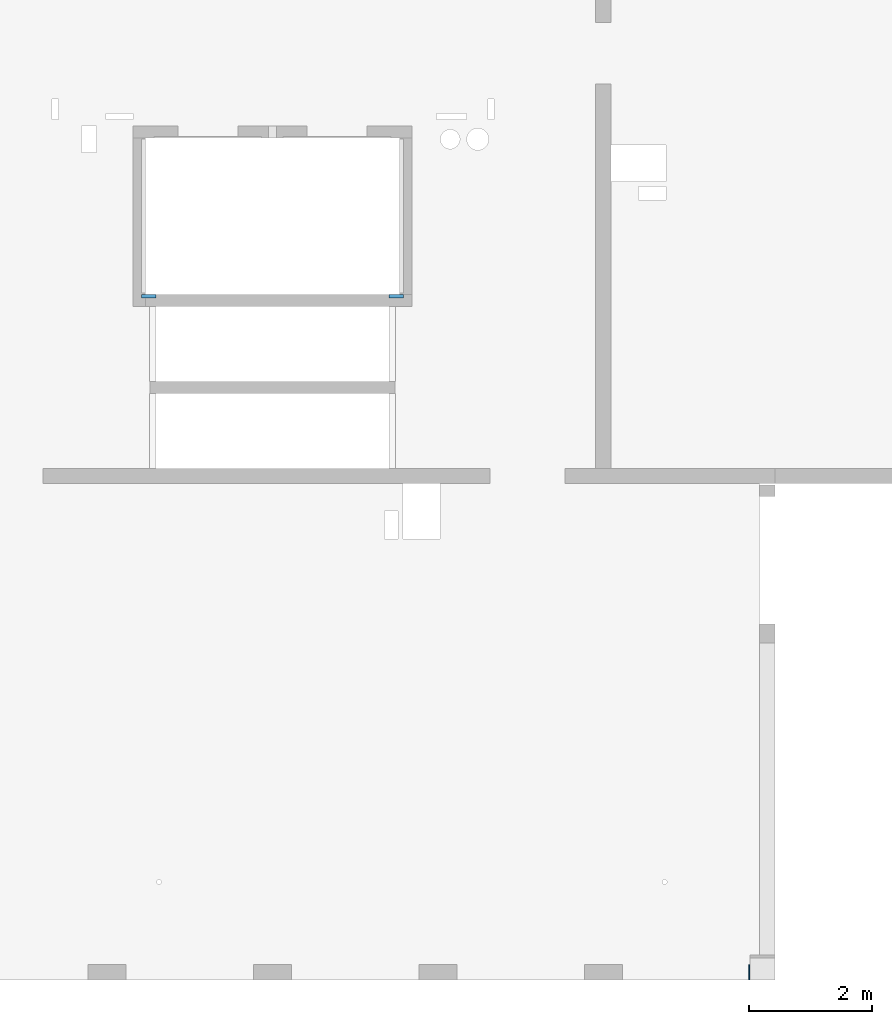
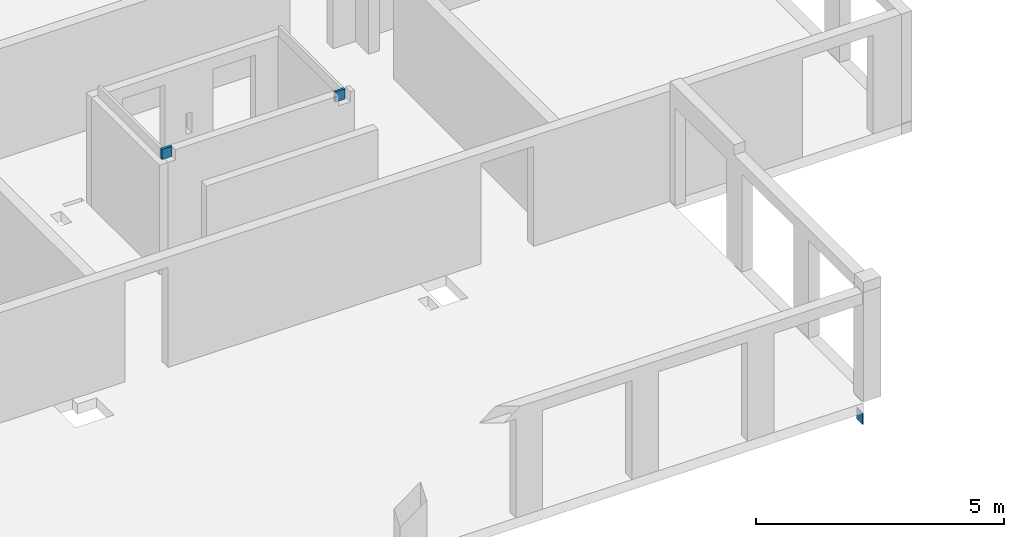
# One storey, part 5 of 8: 3 walls, 1 opening.
"""IFC2X3 building model written with IfcOpenShell, lengths in millimetres."""

import ifcopenshell
import ifcopenshell.guid

model = None  # the IFC model being written
_history = None  # IfcOwnerHistory: only IFC2X3 demands one
_inside = {}  # id of a spatial element -> (the spatial element, [elements in it])
_under = {}  # id of a project, library or spatial element -> (it, [spatial elements below it])
_declared = {}  # id of a project -> (the project, [libraries it declares])
_typed = {}  # id of a type object -> (the type object, [elements of that type])
_made_of = {}  # id of a material, layer set ... -> (it, [elements and type objects made of it])


def new_model(schema):
    """Start an empty IFC model of exactly this schema.

    Asked for "IFC4X3", IfcOpenShell would pick the latest addendum, in which some entities
    have other attributes; the version numbers below select the first issue.
    IFC2X3 requires an IfcOwnerHistory on every rooted entity: one is made here for all.
    """
    global model, _history
    if schema == "IFC4X3":
        model = ifcopenshell.file(schema_version=(4, 3, 0, 0))
    else:
        model = ifcopenshell.file(schema=schema)
    _inside.clear()
    _under.clear()
    _declared.clear()
    _typed.clear()
    _made_of.clear()
    _history = None
    if model.schema == "IFC2X3":
        org = make("IfcOrganization", Name="unknown")
        user = make(
            "IfcPersonAndOrganization",
            ThePerson=make("IfcPerson", FamilyName="unknown"),
            TheOrganization=org,
        )
        app = make(
            "IfcApplication",
            ApplicationDeveloper=org,
            Version="unknown",
            ApplicationFullName="unknown",
            ApplicationIdentifier="unknown",
        )
        _history = make(
            "IfcOwnerHistory",
            OwningUser=user,
            OwningApplication=app,
            ChangeAction="ADDED",
            CreationDate=0,
        )
    return model


def make(cls, **values):
    """One entity of the class cls with the attributes given. An attribute that is None is left unset."""
    return model.create_entity(
        cls, **{name: value for name, value in values.items() if value is not None}
    )


def entity(cls, *values):
    """Any entity or typed value of the class cls, its attributes in the order of the schema. None: left unset."""
    e = model.create_entity(cls)
    for i, value in enumerate(values):
        if value is not None:
            e[i] = value
    return e


def rooted(cls, **values):
    """An entity with a GlobalId (a new one), such as an element, a storey or a relation."""
    return make(cls, GlobalId=ifcopenshell.guid.new(), OwnerHistory=_history, **values)


def si_unit(unit_type, name, prefix=None):
    """IfcSIUnit, for example si_unit("LENGTHUNIT", "METRE", prefix="MILLI")."""
    return make("IfcSIUnit", UnitType=unit_type, Prefix=prefix, Name=name)


def converted_unit(unit_type, name, factor, base, dimensions=None, offset=None):
    """IfcConversionBasedUnit, such as the inch: factor (a typed value) times the base unit."""
    return make(
        "IfcConversionBasedUnit"
        if offset is None
        else "IfcConversionBasedUnitWithOffset",
        ConversionOffset=offset,
        Dimensions=None
        if dimensions is None
        else entity("IfcDimensionalExponents", *dimensions),
        UnitType=unit_type,
        Name=name,
        ConversionFactor=make(
            "IfcMeasureWithUnit", ValueComponent=factor, UnitComponent=base
        ),
    )


def derived_unit(unit_type, elements):
    """IfcDerivedUnit: a product of units, each with its exponent."""
    return make(
        "IfcDerivedUnit",
        Elements=[
            make("IfcDerivedUnitElement", Unit=unit, Exponent=power)
            for unit, power in elements
        ],
        UnitType=unit_type,
    )


def assignment(units):
    """IfcUnitAssignment: the units of a project."""
    return None if units is None else make("IfcUnitAssignment", Units=units)


def point(xyz):
    """IfcCartesianPoint."""
    return None if xyz is None else make("IfcCartesianPoint", Coordinates=xyz)


def direction(xyz):
    """IfcDirection."""
    return None if xyz is None else make("IfcDirection", DirectionRatios=xyz)


def frame(location, z_axis=None, x_axis=None):
    """IfcAxis2Placement3D, a coordinate frame: its origin and axes. An axis left out is left unset."""
    return make(
        "IfcAxis2Placement3D",
        Location=point(location),
        Axis=direction(z_axis),
        RefDirection=direction(x_axis),
    )


def frame_2d(location, x_axis=None):
    """IfcAxis2Placement2D, a coordinate frame in the plane: its origin and x axis."""
    return make(
        "IfcAxis2Placement2D", Location=point(location), RefDirection=direction(x_axis)
    )


def origin():
    """The frame at (0, 0, 0) with its axes left unset."""
    return frame((0.0, 0.0, 0.0))


def place(relative_to, where):
    """IfcLocalPlacement: puts the frame where relative to a parent placement (None: the world)."""
    return make(
        "IfcLocalPlacement", PlacementRelTo=relative_to, RelativePlacement=where
    )


def context(
    kind, dimensions, precision=None, world=None, true_north=None, identifier=None
):
    """IfcGeometricRepresentationContext, for example the 3D "Model" context."""
    return make(
        "IfcGeometricRepresentationContext",
        ContextIdentifier=identifier,
        ContextType=kind,
        CoordinateSpaceDimension=dimensions,
        Precision=precision,
        WorldCoordinateSystem=world,
        TrueNorth=true_north,
    )


def subcontext(parent, identifier, kind, view, scale=None):
    """IfcGeometricRepresentationSubContext, for example "Body" below "Model"."""
    return make(
        "IfcGeometricRepresentationSubContext",
        ContextIdentifier=identifier,
        ContextType=kind,
        ParentContext=parent,
        TargetScale=scale,
        TargetView=view,
    )


def project(units=None, contexts=None):
    """IfcProject with its units and contexts."""
    return rooted(
        "IfcProject",
        Name="project",
        RepresentationContexts=contexts,
        UnitsInContext=assignment(units),
    )


def spatial(cls, under=None, at=None, **own):
    """A site, building, storey or space (cls), placed at a placement, below another one or the project."""
    s = rooted(cls, ObjectPlacement=at, **own)
    if under is not None:
        _under.setdefault(under.id(), (under, []))[1].append(s)
    return s


def profile(cls, at=None, kind="AREA", **sizes):
    """A parametric profile (cls). Its sizes go by their IFC names, for example OverallWidth=200.0."""
    return make(cls, ProfileType=kind, Position=at, **sizes)


def rectangle(**sizes):
    """IfcRectangleProfileDef."""
    return profile("IfcRectangleProfileDef", **sizes)


def extrude(swept, where, along, depth):
    """IfcExtrudedAreaSolid: the profile swept, set in the frame where, extruded along a direction by depth."""
    return make(
        "IfcExtrudedAreaSolid",
        SweptArea=swept,
        Position=where,
        ExtrudedDirection=direction(along),
        Depth=depth,
    )


def shape(context_of_items, identifier, shape_type, items):
    """IfcShapeRepresentation: the items that make up one representation, for example the "Body"."""
    return make(
        "IfcShapeRepresentation",
        ContextOfItems=context_of_items,
        RepresentationIdentifier=identifier,
        RepresentationType=shape_type,
        Items=items,
    )


def material(Name=None, Category=None):
    """IfcMaterial."""
    return make("IfcMaterial", Name=Name, Category=Category)


def layer(
    of_material, thickness, ventilated=None, Name=None, Category=None, Priority=None
):
    """IfcMaterialLayer: one layer of a wall or slab, of a material (None: an air gap)."""
    return make(
        "IfcMaterialLayer",
        Material=of_material,
        LayerThickness=thickness,
        IsVentilated=ventilated,
        Name=Name,
        Category=Category,
        Priority=Priority,
    )


def layer_set(layers, Name=None):
    """IfcMaterialLayerSet."""
    return make("IfcMaterialLayerSet", MaterialLayers=layers, LayerSetName=Name)


def layer_usage(for_layer_set, set_direction, sense, offset, extent=None):
    """IfcMaterialLayerSetUsage: how a layer set lies in its element."""
    return make(
        "IfcMaterialLayerSetUsage",
        ForLayerSet=for_layer_set,
        LayerSetDirection=set_direction,
        DirectionSense=sense,
        OffsetFromReferenceLine=offset,
        ReferenceExtent=extent,
    )


def made_of(thing, what):
    """Note that an element or type object is made of a material, layer set ...; save() writes the relation."""
    if what is not None:
        _made_of.setdefault(what.id(), (what, []))[1].append(thing)
    return thing


def type_object(cls, material=None, **own):
    """A type object (cls), such as IfcWallType, which elements share."""
    return made_of(rooted(cls, **own), material)


def element(
    cls,
    number,
    at=None,
    inside=None,
    cuts=None,
    type_object=None,
    material=None,
    context=None,
    identifier="Body",
    shape_type=None,
    held_by="IfcProductDefinitionShape",
    body=None,
    shapes=None,
    **own,
):
    """One element of the class cls, such as IfcWall. Its Tag is "e" and its number.

    at: its placement. inside: the storey or other place that contains it. cuts: it is an
    opening in that element (IfcRelVoidsElement). A single representation is given by context,
    identifier, shape_type and body (its items); several are given by shapes. held_by: the class
    of the entity that holds the representations. save() writes the other relations.
    """
    e = rooted(cls, Tag="e%d" % number, ObjectPlacement=at, **own)
    if body is not None:
        shapes = [shape(context, identifier, shape_type, body)]
    if shapes is not None:
        e.Representation = make(held_by, Representations=shapes)
    if inside is not None:
        _inside.setdefault(inside.id(), (inside, []))[1].append(e)
    if cuts is not None:
        rooted(
            "IfcRelVoidsElement", RelatingBuildingElement=cuts, RelatedOpeningElement=e
        )
    if type_object is not None:
        _typed.setdefault(type_object.id(), (type_object, []))[1].append(e)
    return made_of(e, material)


def aggregate(whole, parts):
    """IfcRelAggregates: a whole, such as a stair, and the parts it consists of."""
    return rooted("IfcRelAggregates", RelatingObject=whole, RelatedObjects=parts)


def save(model, path):
    """Write the relations noted so far, then the file.

    IfcRelAggregates (storeys below a building ...), IfcRelContainedInSpatialStructure (elements
    in a storey), IfcRelDefinesByType, IfcRelAssociatesMaterial and IfcRelDeclares: one each for
    every whole, place, type object, material and project.
    """
    for whole, parts in _under.values():
        aggregate(whole, parts)
    for where, things in _inside.values():
        rooted(
            "IfcRelContainedInSpatialStructure",
            RelatedElements=things,
            RelatingStructure=where,
        )
    for kind, things in _typed.values():
        rooted("IfcRelDefinesByType", RelatedObjects=things, RelatingType=kind)
    for what, things in _made_of.values():
        rooted("IfcRelAssociatesMaterial", RelatedObjects=things, RelatingMaterial=what)
    for by, libraries in _declared.values():
        rooted("IfcRelDeclares", RelatingContext=by, RelatedDefinitions=libraries)
    model.write(path)


model = new_model("IFC2X3")

# Units and contexts
model_context = context("Model", 3, precision=0.01, world=origin(), true_north=direction((6.12303176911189e-17, 1.0)))
body_context = subcontext(model_context, "Body", "Model", "MODEL_VIEW")
ifc_project = project(units=[si_unit("LENGTHUNIT", "METRE", prefix="MILLI"), si_unit("AREAUNIT", "SQUARE_METRE"), si_unit("VOLUMEUNIT", "CUBIC_METRE"), converted_unit("PLANEANGLEUNIT", "DEGREE", entity("IfcRatioMeasure", 0.0174532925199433), si_unit("PLANEANGLEUNIT", "RADIAN"), dimensions=[0, 0, 0, 0, 0, 0, 0]), si_unit("MASSUNIT", "GRAM", prefix="KILO"), derived_unit("MASSDENSITYUNIT", [(si_unit("MASSUNIT", "GRAM", prefix="KILO"), 1), (si_unit("LENGTHUNIT", "METRE"), -3)]), si_unit("TIMEUNIT", "SECOND"), si_unit("FREQUENCYUNIT", "HERTZ"), si_unit("THERMODYNAMICTEMPERATUREUNIT", "DEGREE_CELSIUS"), derived_unit("THERMALTRANSMITTANCEUNIT", [(si_unit("MASSUNIT", "GRAM", prefix="KILO"), 1), (si_unit("THERMODYNAMICTEMPERATUREUNIT", "KELVIN"), -1), (si_unit("TIMEUNIT", "SECOND"), -3)]), derived_unit("VOLUMETRICFLOWRATEUNIT", [(si_unit("LENGTHUNIT", "METRE"), 3), (si_unit("TIMEUNIT", "SECOND"), -1)]), si_unit("ELECTRICCURRENTUNIT", "AMPERE"), si_unit("ELECTRICVOLTAGEUNIT", "VOLT"), si_unit("POWERUNIT", "WATT"), si_unit("FORCEUNIT", "NEWTON", prefix="KILO"), si_unit("ILLUMINANCEUNIT", "LUX"), si_unit("LUMINOUSFLUXUNIT", "LUMEN"), si_unit("LUMINOUSINTENSITYUNIT", "CANDELA"), derived_unit("USERDEFINED", [(si_unit("MASSUNIT", "GRAM", prefix="KILO"), -1), (si_unit("LENGTHUNIT", "METRE"), -2), (si_unit("TIMEUNIT", "SECOND"), 3), (si_unit("LUMINOUSFLUXUNIT", "LUMEN"), 1)]), derived_unit("LINEARVELOCITYUNIT", [(si_unit("LENGTHUNIT", "METRE"), 1), (si_unit("TIMEUNIT", "SECOND"), -1)]), si_unit("PRESSUREUNIT", "PASCAL"), derived_unit("USERDEFINED", [(si_unit("LENGTHUNIT", "METRE"), -2), (si_unit("MASSUNIT", "GRAM", prefix="KILO"), 1), (si_unit("TIMEUNIT", "SECOND"), -2)])], contexts=[model_context])

# Site, building, storey
site_placement = place(None, origin())
site = spatial("IfcSite", under=ifc_project, at=site_placement, Name="Default", CompositionType="ELEMENT")
building_placement = place(site_placement, origin())
building = spatial("IfcBuilding", under=site, at=building_placement, Name="niet gebruiken", CompositionType="ELEMENT")
storey_placement = place(building_placement, frame((0.0, 0.0, 45270.0)))
storey = spatial("IfcBuildingStorey", under=building, at=storey_placement, Name="15 vijftiende verdieping", CompositionType="ELEMENT", Elevation=45270.0)

# Wall, opening
ifc_material_1 = material(Name="NLRS_f2_beton ihwg")
ifc_layer_1 = layer(ifc_material_1, 250.0)
ifc_layer_set_1 = layer_set([ifc_layer_1], Name="Basic Wall:NLRS_21.21_WA_beton ihwg d=250_gen")
ifc_layer_usage_1 = layer_usage(ifc_layer_set_1, "AXIS2", "NEGATIVE", 125.0)
wall_type_1 = type_object("IfcWallType", Name="Basic Wall:NLRS_21.21_WA_beton ihwg d=250_gen", PredefinedType="STANDARD", material=ifc_layer_set_1)
wall_1_placement = place(storey_placement, frame((50970.0, 28881.0, -620.0)))
wall_1 = element("IfcWallStandardCase", 1, at=wall_1_placement, inside=storey, type_object=wall_type_1, material=ifc_layer_usage_1, Name="Basic Wall:NLRS_21.21_WA_beton ihwg d=250_gen", ObjectType="Basic Wall:NLRS_21.21_WA_beton ihwg d=250_gen", context=body_context, shape_type="SweptSolid", body=[
    extrude(rectangle(XDim=19.999999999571, YDim=250.000000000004, at=frame_2d((9.99999999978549, 1.63424829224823e-13), x_axis=(-1.0, 0.0))), origin(), (0.0, 0.0, 1.0), 280.000000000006),
])
opening_placement = place(wall_1_placement, origin())
element("IfcOpeningElement", 2, at=opening_placement, cuts=wall_1, Name="Basic Wall:NLRS_21.21_WA_beton ihwg d=250_gen", ObjectType="Opening", context=body_context, shape_type="SweptSolid", body=[
    extrude(rectangle(XDim=2440.0, YDim=2080.0, at=frame_2d((0.0, 0.0), x_axis=(0.0, 1.0))), frame((-1020.0, -1399.0, -1220.0), z_axis=(0.0, 1.0, 0.0), x_axis=(-1.0, 0.0, 0.0)), (0.0, 0.0, 1.0), 3048.0),
])

# Walls
ifc_material_2 = material(Name="NLRS_f2_beton prefab")
ifc_layer_2 = layer(ifc_material_2, 60.0)
ifc_layer_set_2 = layer_set([ifc_layer_2], Name="Basic Wall:NLRS_22.21_WA_beton prefab d=60_gen")
ifc_layer_usage_2 = layer_usage(ifc_layer_set_2, "AXIS2", "NEGATIVE", 30.0)
wall_type_2 = type_object("IfcWallType", Name="Basic Wall:NLRS_22.21_WA_beton prefab d=60_gen", PredefinedType="STANDARD", material=ifc_layer_set_2)
wall_2_placement = place(storey_placement, frame((41065.0, 39916.0, 2630.0)))
element("IfcWallStandardCase", 3, at=wall_2_placement, inside=storey, type_object=wall_type_2, material=ifc_layer_usage_2, Name="Basic Wall:NLRS_22.21_WA_beton prefab d=60_gen", ObjectType="Basic Wall:NLRS_22.21_WA_beton prefab d=60_gen", context=body_context, shape_type="SweptSolid", body=[
    extrude(rectangle(XDim=234.999967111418, YDim=60.0000000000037, at=frame_2d((117.499983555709, -4.12292422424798e-12), x_axis=(-1.0, 0.0))), origin(), (0.0, 0.0, 1.0), 250.000000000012),
])
ifc_layer_usage_3 = layer_usage(ifc_layer_set_2, "AXIS2", "POSITIVE", -30.0)
wall_3_placement = place(storey_placement, frame((45335.0, 39916.0, 2630.0), z_axis=(0.0, 0.0, 1.0), x_axis=(-1.0, 0.0, 0.0)))
element("IfcWallStandardCase", 4, at=wall_3_placement, inside=storey, type_object=wall_type_2, material=ifc_layer_usage_3, Name="Basic Wall:NLRS_22.21_WA_beton prefab d=60_gen", ObjectType="Basic Wall:NLRS_22.21_WA_beton prefab d=60_gen", context=body_context, shape_type="SweptSolid", body=[
    extrude(rectangle(XDim=234.999967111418, YDim=60.0000000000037, at=frame_2d((117.499983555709, 4.12114786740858e-12), x_axis=(-1.0, 0.0))), origin(), (0.0, 0.0, 1.0), 250.000000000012),
])

save(model, "model.ifc")
